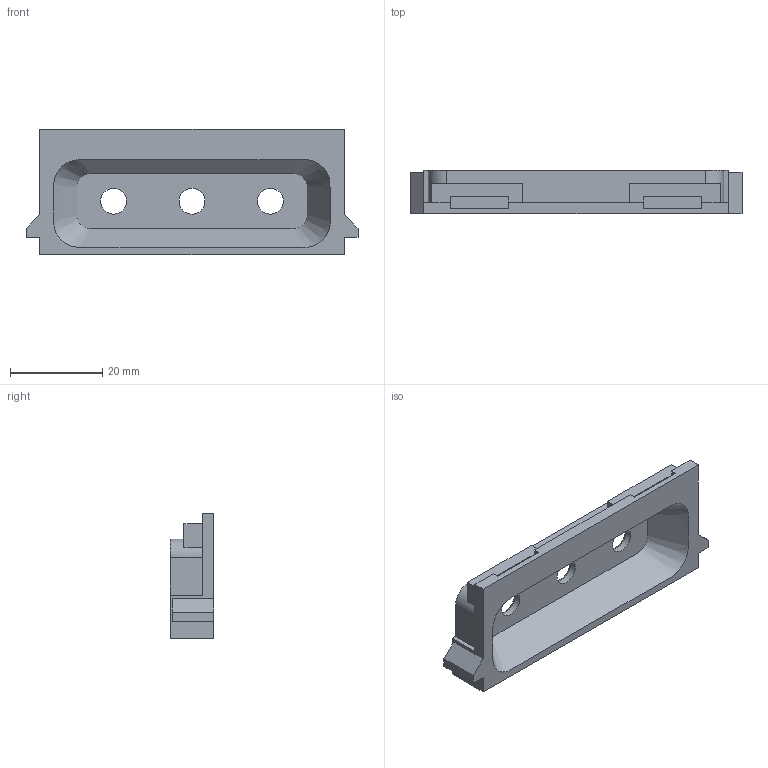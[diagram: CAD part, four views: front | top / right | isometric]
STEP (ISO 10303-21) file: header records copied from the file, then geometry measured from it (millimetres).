
FILE_DESCRIPTION(/* description */ (''),/* implementation_level */ '2;1');
FILE_NAME(/* name */ 'probe-fascia.step',/* time_stamp */ '2026-09-14T13:08:18-07:00',/* author */ (''),/* organization */ (''),/* preprocessor_version */ 'ST-DEVELOPER v20.2',/* originating_system */ 'Autodesk Translation Framework v15.15.0.0',/* authorisation */ '');
FILE_SCHEMA (('AUTOMOTIVE_DESIGN { 1 0 10303 214 3 1 1 }'));
Length unit declared in the file: centimetre
Products named in the file (1): 04 Probe fascia - continuous runners
Bounding box: 72 x 9.5 x 27.3 mm (x, y, z)
Volume: 8778.5 mm3; surface area: 6338.1 mm2
Topology: 1 solids, 1 shells, 58 faces, 156 edges, 103 vertices
Faces by surface type: plane 47, cylinder 7, cone 3, bspline 1
Full cylindrical faces by diameter (mm): 5.6 x3
Entity records: 2120 total; most frequent: CARTESIAN_POINT 598, ORIENTED_EDGE 312, DIRECTION 289, EDGE_CURVE 156, LINE 135, VECTOR 135, VERTEX_POINT 103, AXIS2_PLACEMENT_3D 77
